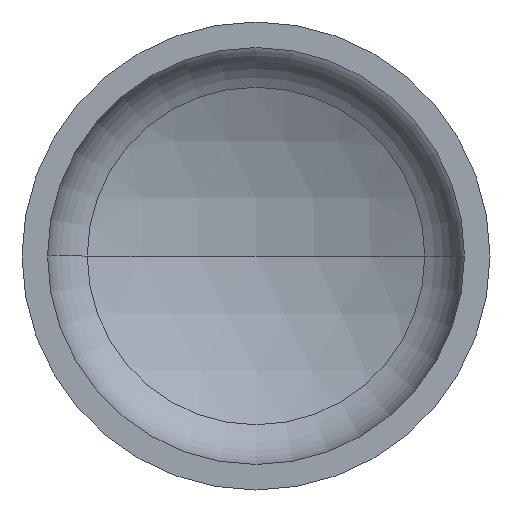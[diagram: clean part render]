
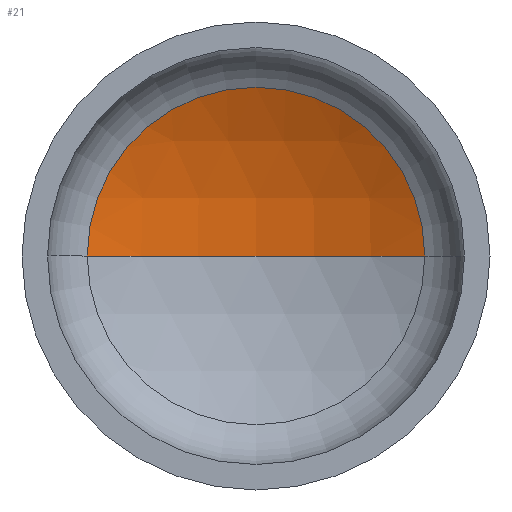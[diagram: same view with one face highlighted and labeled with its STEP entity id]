
A CAD part, front view. The second image highlights one B-rep face of the part: STEP entity #21.
In plain terms, the highlighted spherical face has radius 1760 mm.
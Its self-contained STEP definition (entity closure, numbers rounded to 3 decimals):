
#7 = EDGE_LOOP ( 'NONE', ( #84, #20, #344 ) ) ;
#20 = ORIENTED_EDGE ( 'NONE', *, *, #100, .T. ) ;
#21 = ADVANCED_FACE ( 'NONE', ( #337 ), #333, .F. ) ;
#30 = AXIS2_PLACEMENT_3D ( 'NONE', #235, #185, #188 ) ;
#34 = AXIS2_PLACEMENT_3D ( 'NONE', #189, #233, #158 ) ;
#36 = AXIS2_PLACEMENT_3D ( 'NONE', #180, #181, #182 ) ;
#53 = AXIS2_PLACEMENT_3D ( 'NONE', #288, #257, #284 ) ;
#64 = VERTEX_POINT ( 'NONE', #231 ) ;
#84 = ORIENTED_EDGE ( 'NONE', *, *, #129, .F. ) ;
#92 = EDGE_CURVE ( 'NONE', #137, #64, #368, .T. ) ;
#100 = EDGE_CURVE ( 'NONE', #168, #137, #187, .T. ) ;
#129 = EDGE_CURVE ( 'NONE', #168, #64, #309, .T. ) ;
#137 = VERTEX_POINT ( 'NONE', #252 ) ;
#158 = DIRECTION ( 'NONE',  ( -1., 0., 0. ) ) ;
#168 = VERTEX_POINT ( 'NONE', #263 ) ;
#180 = CARTESIAN_POINT ( 'NONE',  ( 0., 378.509, 0. ) ) ;
#181 = DIRECTION ( 'NONE',  ( 0., -1., 0. ) ) ;
#182 = DIRECTION ( 'NONE',  ( 1., 0., 0. ) ) ;
#185 = DIRECTION ( 'NONE',  ( 0., 0., 1. ) ) ;
#187 = CIRCLE ( 'NONE', #34, 1760. ) ;
#188 = DIRECTION ( 'NONE',  ( 1., 0., 0. ) ) ;
#189 = CARTESIAN_POINT ( 'NONE',  ( 0., -1192.596, 0. ) ) ;
#231 = CARTESIAN_POINT ( 'NONE',  ( -793.239, 378.509, 0. ) ) ;
#233 = DIRECTION ( 'NONE',  ( 0., 0., -1. ) ) ;
#235 = CARTESIAN_POINT ( 'NONE',  ( 0., -1192.596, 0. ) ) ;
#252 = CARTESIAN_POINT ( 'NONE',  ( 793.239, 378.509, 0. ) ) ;
#257 = DIRECTION ( 'NONE',  ( 0., 0., -1. ) ) ;
#263 = CARTESIAN_POINT ( 'NONE',  ( 0., 567.404, 0. ) ) ;
#284 = DIRECTION ( 'NONE',  ( -1., 0., 0. ) ) ;
#288 = CARTESIAN_POINT ( 'NONE',  ( 0., -1192.596, 0. ) ) ;
#309 = CIRCLE ( 'NONE', #30, 1760. ) ;
#333 = SPHERICAL_SURFACE ( 'NONE', #53, 1760. ) ;
#337 = FACE_OUTER_BOUND ( 'NONE', #7, .T. ) ;
#344 = ORIENTED_EDGE ( 'NONE', *, *, #92, .T. ) ;
#368 = CIRCLE ( 'NONE', #36, 793.239 ) ;
